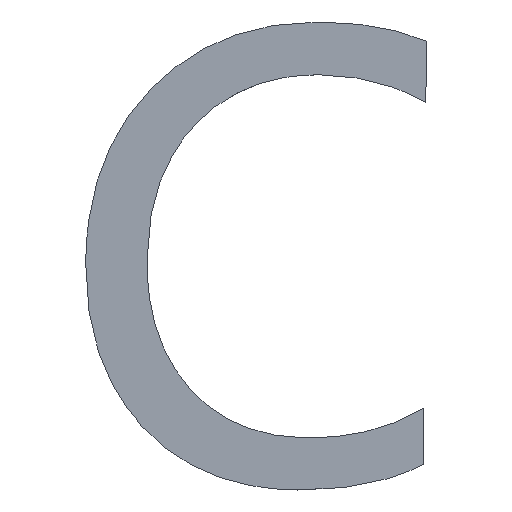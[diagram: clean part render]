
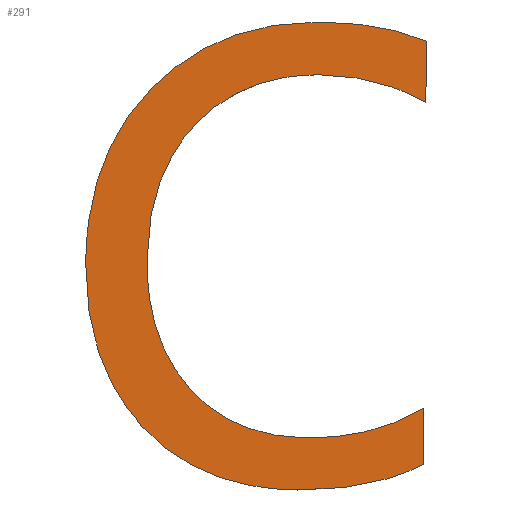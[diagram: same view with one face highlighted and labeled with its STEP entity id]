
A CAD part, top view. The second image highlights one B-rep face of the part: STEP entity #291.
In plain terms, the highlighted planar face has unit normal (0, 0, 1).
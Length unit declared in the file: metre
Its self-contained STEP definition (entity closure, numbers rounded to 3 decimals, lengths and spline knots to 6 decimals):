
#26=LINE('',#521,#44);
#27=LINE('',#553,#45);
#44=VECTOR('',#428,1.);
#45=VECTOR('',#429,1.);
#74=ORIENTED_EDGE('',*,*,#158,.T.);
#75=ORIENTED_EDGE('',*,*,#159,.T.);
#76=ORIENTED_EDGE('',*,*,#160,.T.);
#77=ORIENTED_EDGE('',*,*,#161,.T.);
#78=ORIENTED_EDGE('',*,*,#162,.T.);
#79=ORIENTED_EDGE('',*,*,#163,.T.);
#80=ORIENTED_EDGE('',*,*,#164,.T.);
#81=ORIENTED_EDGE('',*,*,#165,.T.);
#82=ORIENTED_EDGE('',*,*,#166,.T.);
#83=ORIENTED_EDGE('',*,*,#167,.T.);
#84=ORIENTED_EDGE('',*,*,#168,.T.);
#85=ORIENTED_EDGE('',*,*,#169,.T.);
#86=ORIENTED_EDGE('',*,*,#170,.T.);
#87=ORIENTED_EDGE('',*,*,#171,.T.);
#158=EDGE_CURVE('',#200,#201,#226,.T.);
#159=EDGE_CURVE('',#201,#202,#26,.T.);
#160=EDGE_CURVE('',#202,#203,#227,.T.);
#161=EDGE_CURVE('',#203,#204,#228,.T.);
#162=EDGE_CURVE('',#204,#205,#229,.T.);
#163=EDGE_CURVE('',#205,#206,#230,.T.);
#164=EDGE_CURVE('',#206,#207,#231,.T.);
#165=EDGE_CURVE('',#207,#208,#232,.T.);
#166=EDGE_CURVE('',#208,#209,#27,.T.);
#167=EDGE_CURVE('',#209,#210,#233,.T.);
#168=EDGE_CURVE('',#210,#211,#234,.T.);
#169=EDGE_CURVE('',#211,#212,#235,.T.);
#170=EDGE_CURVE('',#212,#213,#236,.T.);
#171=EDGE_CURVE('',#213,#200,#237,.T.);
#200=VERTEX_POINT('',#519);
#201=VERTEX_POINT('',#520);
#202=VERTEX_POINT('',#522);
#203=VERTEX_POINT('',#527);
#204=VERTEX_POINT('',#532);
#205=VERTEX_POINT('',#537);
#206=VERTEX_POINT('',#542);
#207=VERTEX_POINT('',#547);
#208=VERTEX_POINT('',#552);
#209=VERTEX_POINT('',#554);
#210=VERTEX_POINT('',#559);
#211=VERTEX_POINT('',#564);
#212=VERTEX_POINT('',#569);
#213=VERTEX_POINT('',#574);
#226=B_SPLINE_CURVE_WITH_KNOTS('',3,(#515,#516,#517,#518),.UNSPECIFIED.,
 .F.,.F.,(4,4),(0.,1.),.UNSPECIFIED.);
#227=B_SPLINE_CURVE_WITH_KNOTS('',3,(#523,#524,#525,#526),.UNSPECIFIED.,
 .F.,.F.,(4,4),(12.,13.),.UNSPECIFIED.);
#228=B_SPLINE_CURVE_WITH_KNOTS('',3,(#528,#529,#530,#531),.UNSPECIFIED.,
 .F.,.F.,(4,4),(11.,12.),.UNSPECIFIED.);
#229=B_SPLINE_CURVE_WITH_KNOTS('',3,(#533,#534,#535,#536),.UNSPECIFIED.,
 .F.,.F.,(4,4),(10.,11.),.UNSPECIFIED.);
#230=B_SPLINE_CURVE_WITH_KNOTS('',3,(#538,#539,#540,#541),.UNSPECIFIED.,
 .F.,.F.,(4,4),(9.,10.),.UNSPECIFIED.);
#231=B_SPLINE_CURVE_WITH_KNOTS('',3,(#543,#544,#545,#546),.UNSPECIFIED.,
 .F.,.F.,(4,4),(8.,9.),.UNSPECIFIED.);
#232=B_SPLINE_CURVE_WITH_KNOTS('',3,(#548,#549,#550,#551),.UNSPECIFIED.,
 .F.,.F.,(4,4),(7.,8.),.UNSPECIFIED.);
#233=B_SPLINE_CURVE_WITH_KNOTS('',3,(#555,#556,#557,#558),.UNSPECIFIED.,
 .F.,.F.,(4,4),(5.,6.),.UNSPECIFIED.);
#234=B_SPLINE_CURVE_WITH_KNOTS('',3,(#560,#561,#562,#563),.UNSPECIFIED.,
 .F.,.F.,(4,4),(4.,5.),.UNSPECIFIED.);
#235=B_SPLINE_CURVE_WITH_KNOTS('',3,(#565,#566,#567,#568),.UNSPECIFIED.,
 .F.,.F.,(4,4),(3.,4.),.UNSPECIFIED.);
#236=B_SPLINE_CURVE_WITH_KNOTS('',3,(#570,#571,#572,#573),.UNSPECIFIED.,
 .F.,.F.,(4,4),(2.,3.),.UNSPECIFIED.);
#237=B_SPLINE_CURVE_WITH_KNOTS('',3,(#575,#576,#577,#578),.UNSPECIFIED.,
 .F.,.F.,(4,4),(1.,2.),.UNSPECIFIED.);
#239=EDGE_LOOP('',(#74,#75,#76,#77,#78,#79,#80,#81,#82,#83,#84,#85,#86,
#87));
#255=FACE_BOUND('',#239,.T.);
#271=PLANE('',#417);
#291=ADVANCED_FACE('',(#255),#271,.T.);
#417=AXIS2_PLACEMENT_3D('',#514,#426,#427);
#426=DIRECTION('',(0.,0.,1.));
#427=DIRECTION('',(-1.,0.,0.));
#428=DIRECTION('',(0.007,1.,0.));
#429=DIRECTION('',(0.007,1.,0.));
#514=CARTESIAN_POINT('',(-0.121163,-0.065612,0.011051));
#515=CARTESIAN_POINT('',(-0.121182,-0.065614,0.011051));
#516=CARTESIAN_POINT('',(-0.121168,-0.065614,0.011051));
#517=CARTESIAN_POINT('',(-0.121157,-0.065612,0.011051));
#518=CARTESIAN_POINT('',(-0.121148,-0.065607,0.011051));
#519=CARTESIAN_POINT('',(-0.121182,-0.065614,0.011051));
#520=CARTESIAN_POINT('',(-0.121148,-0.065607,0.011051));
#521=CARTESIAN_POINT('',(-0.121148,-0.065592,0.011051));
#522=CARTESIAN_POINT('',(-0.121148,-0.065592,0.011051));
#523=CARTESIAN_POINT('',(-0.121148,-0.065592,0.011051));
#524=CARTESIAN_POINT('',(-0.121157,-0.065597,0.011051));
#525=CARTESIAN_POINT('',(-0.121168,-0.0656,0.011051));
#526=CARTESIAN_POINT('',(-0.12118,-0.0656,0.011051));
#527=CARTESIAN_POINT('',(-0.12118,-0.0656,0.011051));
#528=CARTESIAN_POINT('',(-0.12118,-0.0656,0.011051));
#529=CARTESIAN_POINT('',(-0.121193,-0.0656,0.011051));
#530=CARTESIAN_POINT('',(-0.121203,-0.065595,0.011051));
#531=CARTESIAN_POINT('',(-0.121211,-0.065587,0.011051));
#532=CARTESIAN_POINT('',(-0.121211,-0.065587,0.011051));
#533=CARTESIAN_POINT('',(-0.121211,-0.065587,0.011051));
#534=CARTESIAN_POINT('',(-0.121219,-0.065578,0.011051));
#535=CARTESIAN_POINT('',(-0.121223,-0.065567,0.011051));
#536=CARTESIAN_POINT('',(-0.121223,-0.065552,0.011051));
#537=CARTESIAN_POINT('',(-0.121223,-0.065552,0.011051));
#538=CARTESIAN_POINT('',(-0.121223,-0.065552,0.011051));
#539=CARTESIAN_POINT('',(-0.121223,-0.065537,0.011051));
#540=CARTESIAN_POINT('',(-0.121218,-0.065524,0.011051));
#541=CARTESIAN_POINT('',(-0.12121,-0.065515,0.011051));
#542=CARTESIAN_POINT('',(-0.12121,-0.065515,0.011051));
#543=CARTESIAN_POINT('',(-0.12121,-0.065515,0.011051));
#544=CARTESIAN_POINT('',(-0.121201,-0.065506,0.011051));
#545=CARTESIAN_POINT('',(-0.12119,-0.065502,0.011051));
#546=CARTESIAN_POINT('',(-0.121176,-0.065502,0.011051));
#547=CARTESIAN_POINT('',(-0.121176,-0.065502,0.011051));
#548=CARTESIAN_POINT('',(-0.121176,-0.065502,0.011051));
#549=CARTESIAN_POINT('',(-0.121166,-0.065502,0.011051));
#550=CARTESIAN_POINT('',(-0.121156,-0.065505,0.011051));
#551=CARTESIAN_POINT('',(-0.121147,-0.06551,0.011051));
#552=CARTESIAN_POINT('',(-0.121147,-0.06551,0.011051));
#553=CARTESIAN_POINT('',(-0.121147,-0.065493,0.011051));
#554=CARTESIAN_POINT('',(-0.121147,-0.065493,0.011051));
#555=CARTESIAN_POINT('',(-0.121147,-0.065493,0.011051));
#556=CARTESIAN_POINT('',(-0.121155,-0.06549,0.011051));
#557=CARTESIAN_POINT('',(-0.121165,-0.065488,0.011051));
#558=CARTESIAN_POINT('',(-0.121176,-0.065488,0.011051));
#559=CARTESIAN_POINT('',(-0.121176,-0.065488,0.011051));
#560=CARTESIAN_POINT('',(-0.121176,-0.065488,0.011051));
#561=CARTESIAN_POINT('',(-0.121194,-0.065488,0.011051));
#562=CARTESIAN_POINT('',(-0.121209,-0.065494,0.011051));
#563=CARTESIAN_POINT('',(-0.121221,-0.065506,0.011051));
#564=CARTESIAN_POINT('',(-0.121221,-0.065506,0.011051));
#565=CARTESIAN_POINT('',(-0.121221,-0.065506,0.011051));
#566=CARTESIAN_POINT('',(-0.121233,-0.065517,0.011051));
#567=CARTESIAN_POINT('',(-0.121239,-0.065533,0.011051));
#568=CARTESIAN_POINT('',(-0.121239,-0.065553,0.011051));
#569=CARTESIAN_POINT('',(-0.121239,-0.065553,0.011051));
#570=CARTESIAN_POINT('',(-0.121239,-0.065553,0.011051));
#571=CARTESIAN_POINT('',(-0.121239,-0.065571,0.011051));
#572=CARTESIAN_POINT('',(-0.121234,-0.065586,0.011051));
#573=CARTESIAN_POINT('',(-0.121224,-0.065597,0.011051));
#574=CARTESIAN_POINT('',(-0.121224,-0.065597,0.011051));
#575=CARTESIAN_POINT('',(-0.121224,-0.065597,0.011051));
#576=CARTESIAN_POINT('',(-0.121213,-0.065608,0.011051));
#577=CARTESIAN_POINT('',(-0.1212,-0.065614,0.011051));
#578=CARTESIAN_POINT('',(-0.121182,-0.065614,0.011051));
